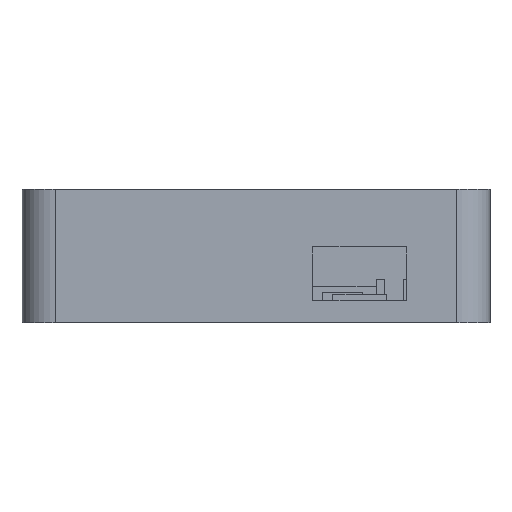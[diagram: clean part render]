
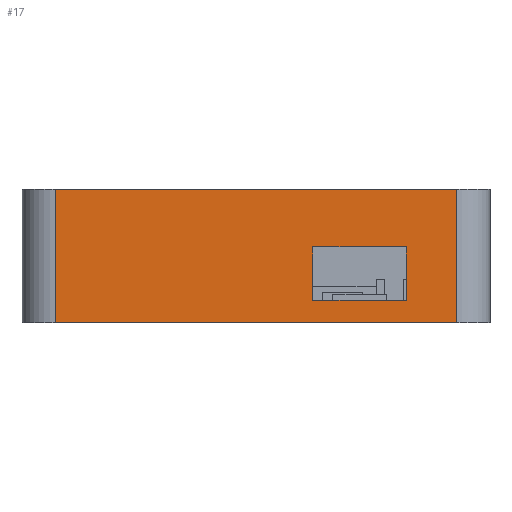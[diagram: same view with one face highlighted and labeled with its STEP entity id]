
A CAD part, left-side view. The second image highlights one B-rep face of the part: STEP entity #17.
In plain terms, the highlighted planar face has unit normal (-1, 0, 0).
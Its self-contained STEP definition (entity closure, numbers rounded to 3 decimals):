
#17 = ADVANCED_FACE('',(#18,#137),#32,.F.);
#18 = FACE_BOUND('',#19,.F.);
#19 = EDGE_LOOP('',(#20,#55,#83,#111));
#20 = ORIENTED_EDGE('',*,*,#21,.F.);
#21 = EDGE_CURVE('',#22,#24,#26,.T.);
#22 = VERTEX_POINT('',#23);
#23 = CARTESIAN_POINT('',(-35.,-30.,-2.));
#24 = VERTEX_POINT('',#25);
#25 = CARTESIAN_POINT('',(-35.,30.,-2.));
#26 = SURFACE_CURVE('',#27,(#31,#43),.PCURVE_S1.);
#27 = LINE('',#28,#29);
#28 = CARTESIAN_POINT('',(-35.,-35.,-2.));
#29 = VECTOR('',#30,1.);
#30 = DIRECTION('',(0.,1.,0.));
#31 = PCURVE('',#32,#37);
#32 = PLANE('',#33);
#33 = AXIS2_PLACEMENT_3D('',#34,#35,#36);
#34 = CARTESIAN_POINT('',(-35.,-35.,-20.));
#35 = DIRECTION('',(1.,0.,0.));
#36 = DIRECTION('',(0.,0.,1.));
#37 = DEFINITIONAL_REPRESENTATION('',(#38),#42);
#38 = LINE('',#39,#40);
#39 = CARTESIAN_POINT('',(18.,0.));
#40 = VECTOR('',#41,1.);
#41 = DIRECTION('',(0.,-1.));
#42 = ( GEOMETRIC_REPRESENTATION_CONTEXT(2) 
PARAMETRIC_REPRESENTATION_CONTEXT() REPRESENTATION_CONTEXT('2D SPACE',''
  ) );
#43 = PCURVE('',#44,#49);
#44 = PLANE('',#45);
#45 = AXIS2_PLACEMENT_3D('',#46,#47,#48);
#46 = CARTESIAN_POINT('',(-35.,-35.,-2.));
#47 = DIRECTION('',(0.,0.,1.));
#48 = DIRECTION('',(1.,0.,0.));
#49 = DEFINITIONAL_REPRESENTATION('',(#50),#54);
#50 = LINE('',#51,#52);
#51 = CARTESIAN_POINT('',(0.,0.));
#52 = VECTOR('',#53,1.);
#53 = DIRECTION('',(0.,1.));
#54 = ( GEOMETRIC_REPRESENTATION_CONTEXT(2) 
PARAMETRIC_REPRESENTATION_CONTEXT() REPRESENTATION_CONTEXT('2D SPACE',''
  ) );
#55 = ORIENTED_EDGE('',*,*,#56,.F.);
#56 = EDGE_CURVE('',#57,#22,#59,.T.);
#57 = VERTEX_POINT('',#58);
#58 = CARTESIAN_POINT('',(-35.,-30.,-22.));
#59 = SURFACE_CURVE('',#60,(#64,#71),.PCURVE_S1.);
#60 = LINE('',#61,#62);
#61 = CARTESIAN_POINT('',(-35.,-30.,-22.));
#62 = VECTOR('',#63,1.);
#63 = DIRECTION('',(0.,0.,1.));
#64 = PCURVE('',#32,#65);
#65 = DEFINITIONAL_REPRESENTATION('',(#66),#70);
#66 = LINE('',#67,#68);
#67 = CARTESIAN_POINT('',(-2.,-5.));
#68 = VECTOR('',#69,1.);
#69 = DIRECTION('',(1.,0.));
#70 = ( GEOMETRIC_REPRESENTATION_CONTEXT(2) 
PARAMETRIC_REPRESENTATION_CONTEXT() REPRESENTATION_CONTEXT('2D SPACE',''
  ) );
#71 = PCURVE('',#72,#77);
#72 = CYLINDRICAL_SURFACE('',#73,5.);
#73 = AXIS2_PLACEMENT_3D('',#74,#75,#76);
#74 = CARTESIAN_POINT('',(-30.,-30.,-20.));
#75 = DIRECTION('',(0.,0.,1.));
#76 = DIRECTION('',(-1.,-0.,0.));
#77 = DEFINITIONAL_REPRESENTATION('',(#78),#82);
#78 = LINE('',#79,#80);
#79 = CARTESIAN_POINT('',(0.,-2.));
#80 = VECTOR('',#81,1.);
#81 = DIRECTION('',(0.,1.));
#82 = ( GEOMETRIC_REPRESENTATION_CONTEXT(2) 
PARAMETRIC_REPRESENTATION_CONTEXT() REPRESENTATION_CONTEXT('2D SPACE',''
  ) );
#83 = ORIENTED_EDGE('',*,*,#84,.T.);
#84 = EDGE_CURVE('',#57,#85,#87,.T.);
#85 = VERTEX_POINT('',#86);
#86 = CARTESIAN_POINT('',(-35.,30.,-22.));
#87 = SURFACE_CURVE('',#88,(#92,#99),.PCURVE_S1.);
#88 = LINE('',#89,#90);
#89 = CARTESIAN_POINT('',(-35.,-35.,-22.));
#90 = VECTOR('',#91,1.);
#91 = DIRECTION('',(0.,1.,0.));
#92 = PCURVE('',#32,#93);
#93 = DEFINITIONAL_REPRESENTATION('',(#94),#98);
#94 = LINE('',#95,#96);
#95 = CARTESIAN_POINT('',(-2.,0.));
#96 = VECTOR('',#97,1.);
#97 = DIRECTION('',(0.,-1.));
#98 = ( GEOMETRIC_REPRESENTATION_CONTEXT(2) 
PARAMETRIC_REPRESENTATION_CONTEXT() REPRESENTATION_CONTEXT('2D SPACE',''
  ) );
#99 = PCURVE('',#100,#105);
#100 = PLANE('',#101);
#101 = AXIS2_PLACEMENT_3D('',#102,#103,#104);
#102 = CARTESIAN_POINT('',(-35.,-35.,-22.));
#103 = DIRECTION('',(0.,0.,1.));
#104 = DIRECTION('',(1.,0.,0.));
#105 = DEFINITIONAL_REPRESENTATION('',(#106),#110);
#106 = LINE('',#107,#108);
#107 = CARTESIAN_POINT('',(0.,0.));
#108 = VECTOR('',#109,1.);
#109 = DIRECTION('',(0.,1.));
#110 = ( GEOMETRIC_REPRESENTATION_CONTEXT(2) 
PARAMETRIC_REPRESENTATION_CONTEXT() REPRESENTATION_CONTEXT('2D SPACE',''
  ) );
#111 = ORIENTED_EDGE('',*,*,#112,.F.);
#112 = EDGE_CURVE('',#24,#85,#113,.T.);
#113 = SURFACE_CURVE('',#114,(#118,#125),.PCURVE_S1.);
#114 = LINE('',#115,#116);
#115 = CARTESIAN_POINT('',(-35.,30.,-2.));
#116 = VECTOR('',#117,1.);
#117 = DIRECTION('',(0.,0.,-1.));
#118 = PCURVE('',#32,#119);
#119 = DEFINITIONAL_REPRESENTATION('',(#120),#124);
#120 = LINE('',#121,#122);
#121 = CARTESIAN_POINT('',(18.,-65.));
#122 = VECTOR('',#123,1.);
#123 = DIRECTION('',(-1.,0.));
#124 = ( GEOMETRIC_REPRESENTATION_CONTEXT(2) 
PARAMETRIC_REPRESENTATION_CONTEXT() REPRESENTATION_CONTEXT('2D SPACE',''
  ) );
#125 = PCURVE('',#126,#131);
#126 = CYLINDRICAL_SURFACE('',#127,5.);
#127 = AXIS2_PLACEMENT_3D('',#128,#129,#130);
#128 = CARTESIAN_POINT('',(-30.,30.,-20.));
#129 = DIRECTION('',(0.,0.,1.));
#130 = DIRECTION('',(-1.,-0.,0.));
#131 = DEFINITIONAL_REPRESENTATION('',(#132),#136);
#132 = LINE('',#133,#134);
#133 = CARTESIAN_POINT('',(-0.,18.));
#134 = VECTOR('',#135,1.);
#135 = DIRECTION('',(-0.,-1.));
#136 = ( GEOMETRIC_REPRESENTATION_CONTEXT(2) 
PARAMETRIC_REPRESENTATION_CONTEXT() REPRESENTATION_CONTEXT('2D SPACE',''
  ) );
#137 = FACE_BOUND('',#138,.F.);
#138 = EDGE_LOOP('',(#139,#168,#195,#222));
#139 = ORIENTED_EDGE('',*,*,#140,.T.);
#140 = EDGE_CURVE('',#141,#143,#145,.T.);
#141 = VERTEX_POINT('',#142);
#142 = CARTESIAN_POINT('',(-35.,-8.5,-18.645));
#143 = VERTEX_POINT('',#144);
#144 = CARTESIAN_POINT('',(-35.,-22.5,-18.645));
#145 = SURFACE_CURVE('',#146,(#150,#157),.PCURVE_S1.);
#146 = LINE('',#147,#148);
#147 = CARTESIAN_POINT('',(-35.,-28.75,-18.645));
#148 = VECTOR('',#149,1.);
#149 = DIRECTION('',(0.,-1.,0.));
#150 = PCURVE('',#32,#151);
#151 = DEFINITIONAL_REPRESENTATION('',(#152),#156);
#152 = LINE('',#153,#154);
#153 = CARTESIAN_POINT('',(1.355,-6.25));
#154 = VECTOR('',#155,1.);
#155 = DIRECTION('',(0.,1.));
#156 = ( GEOMETRIC_REPRESENTATION_CONTEXT(2) 
PARAMETRIC_REPRESENTATION_CONTEXT() REPRESENTATION_CONTEXT('2D SPACE',''
  ) );
#157 = PCURVE('',#158,#163);
#158 = PLANE('',#159);
#159 = AXIS2_PLACEMENT_3D('',#160,#161,#162);
#160 = CARTESIAN_POINT('',(-38.,-22.5,-18.645));
#161 = DIRECTION('',(0.,0.,1.));
#162 = DIRECTION('',(1.,0.,0.));
#163 = DEFINITIONAL_REPRESENTATION('',(#164),#167);
#164 = B_SPLINE_CURVE_WITH_KNOTS('',1,(#165,#166),.UNSPECIFIED.,.F.,.F.,
  (2,2),(-20.25,-6.25),.PIECEWISE_BEZIER_KNOTS.);
#165 = CARTESIAN_POINT('',(3.,14.));
#166 = CARTESIAN_POINT('',(3.,0.));
#167 = ( GEOMETRIC_REPRESENTATION_CONTEXT(2) 
PARAMETRIC_REPRESENTATION_CONTEXT() REPRESENTATION_CONTEXT('2D SPACE',''
  ) );
#168 = ORIENTED_EDGE('',*,*,#169,.T.);
#169 = EDGE_CURVE('',#143,#170,#172,.T.);
#170 = VERTEX_POINT('',#171);
#171 = CARTESIAN_POINT('',(-35.,-22.5,-10.645));
#172 = SURFACE_CURVE('',#173,(#177,#184),.PCURVE_S1.);
#173 = LINE('',#174,#175);
#174 = CARTESIAN_POINT('',(-35.,-22.5,-19.323));
#175 = VECTOR('',#176,1.);
#176 = DIRECTION('',(0.,0.,1.));
#177 = PCURVE('',#32,#178);
#178 = DEFINITIONAL_REPRESENTATION('',(#179),#183);
#179 = LINE('',#180,#181);
#180 = CARTESIAN_POINT('',(0.678,-12.5));
#181 = VECTOR('',#182,1.);
#182 = DIRECTION('',(1.,0.));
#183 = ( GEOMETRIC_REPRESENTATION_CONTEXT(2) 
PARAMETRIC_REPRESENTATION_CONTEXT() REPRESENTATION_CONTEXT('2D SPACE',''
  ) );
#184 = PCURVE('',#185,#190);
#185 = PLANE('',#186);
#186 = AXIS2_PLACEMENT_3D('',#187,#188,#189);
#187 = CARTESIAN_POINT('',(-38.,-22.5,-18.645));
#188 = DIRECTION('',(0.,1.,0.));
#189 = DIRECTION('',(0.,0.,1.));
#190 = DEFINITIONAL_REPRESENTATION('',(#191),#194);
#191 = B_SPLINE_CURVE_WITH_KNOTS('',1,(#192,#193),.UNSPECIFIED.,.F.,.F.,
  (2,2),(0.678,8.678),.PIECEWISE_BEZIER_KNOTS.);
#192 = CARTESIAN_POINT('',(0.,3.));
#193 = CARTESIAN_POINT('',(8.,3.));
#194 = ( GEOMETRIC_REPRESENTATION_CONTEXT(2) 
PARAMETRIC_REPRESENTATION_CONTEXT() REPRESENTATION_CONTEXT('2D SPACE',''
  ) );
#195 = ORIENTED_EDGE('',*,*,#196,.F.);
#196 = EDGE_CURVE('',#197,#170,#199,.T.);
#197 = VERTEX_POINT('',#198);
#198 = CARTESIAN_POINT('',(-35.,-8.5,-10.645));
#199 = SURFACE_CURVE('',#200,(#204,#211),.PCURVE_S1.);
#200 = LINE('',#201,#202);
#201 = CARTESIAN_POINT('',(-35.,-28.75,-10.645));
#202 = VECTOR('',#203,1.);
#203 = DIRECTION('',(0.,-1.,0.));
#204 = PCURVE('',#32,#205);
#205 = DEFINITIONAL_REPRESENTATION('',(#206),#210);
#206 = LINE('',#207,#208);
#207 = CARTESIAN_POINT('',(9.355,-6.25));
#208 = VECTOR('',#209,1.);
#209 = DIRECTION('',(0.,1.));
#210 = ( GEOMETRIC_REPRESENTATION_CONTEXT(2) 
PARAMETRIC_REPRESENTATION_CONTEXT() REPRESENTATION_CONTEXT('2D SPACE',''
  ) );
#211 = PCURVE('',#212,#217);
#212 = PLANE('',#213);
#213 = AXIS2_PLACEMENT_3D('',#214,#215,#216);
#214 = CARTESIAN_POINT('',(-38.,-22.5,-10.645));
#215 = DIRECTION('',(0.,0.,1.));
#216 = DIRECTION('',(1.,0.,0.));
#217 = DEFINITIONAL_REPRESENTATION('',(#218),#221);
#218 = B_SPLINE_CURVE_WITH_KNOTS('',1,(#219,#220),.UNSPECIFIED.,.F.,.F.,
  (2,2),(-20.25,-6.25),.PIECEWISE_BEZIER_KNOTS.);
#219 = CARTESIAN_POINT('',(3.,14.));
#220 = CARTESIAN_POINT('',(3.,0.));
#221 = ( GEOMETRIC_REPRESENTATION_CONTEXT(2) 
PARAMETRIC_REPRESENTATION_CONTEXT() REPRESENTATION_CONTEXT('2D SPACE',''
  ) );
#222 = ORIENTED_EDGE('',*,*,#223,.F.);
#223 = EDGE_CURVE('',#141,#197,#224,.T.);
#224 = SURFACE_CURVE('',#225,(#229,#236),.PCURVE_S1.);
#225 = LINE('',#226,#227);
#226 = CARTESIAN_POINT('',(-35.,-8.5,-19.323));
#227 = VECTOR('',#228,1.);
#228 = DIRECTION('',(0.,0.,1.));
#229 = PCURVE('',#32,#230);
#230 = DEFINITIONAL_REPRESENTATION('',(#231),#235);
#231 = LINE('',#232,#233);
#232 = CARTESIAN_POINT('',(0.678,-26.5));
#233 = VECTOR('',#234,1.);
#234 = DIRECTION('',(1.,0.));
#235 = ( GEOMETRIC_REPRESENTATION_CONTEXT(2) 
PARAMETRIC_REPRESENTATION_CONTEXT() REPRESENTATION_CONTEXT('2D SPACE',''
  ) );
#236 = PCURVE('',#237,#242);
#237 = PLANE('',#238);
#238 = AXIS2_PLACEMENT_3D('',#239,#240,#241);
#239 = CARTESIAN_POINT('',(-38.,-8.5,-18.645));
#240 = DIRECTION('',(0.,1.,0.));
#241 = DIRECTION('',(0.,0.,1.));
#242 = DEFINITIONAL_REPRESENTATION('',(#243),#246);
#243 = B_SPLINE_CURVE_WITH_KNOTS('',1,(#244,#245),.UNSPECIFIED.,.F.,.F.,
  (2,2),(0.678,8.678),.PIECEWISE_BEZIER_KNOTS.);
#244 = CARTESIAN_POINT('',(0.,3.));
#245 = CARTESIAN_POINT('',(8.,3.));
#246 = ( GEOMETRIC_REPRESENTATION_CONTEXT(2) 
PARAMETRIC_REPRESENTATION_CONTEXT() REPRESENTATION_CONTEXT('2D SPACE',''
  ) );
